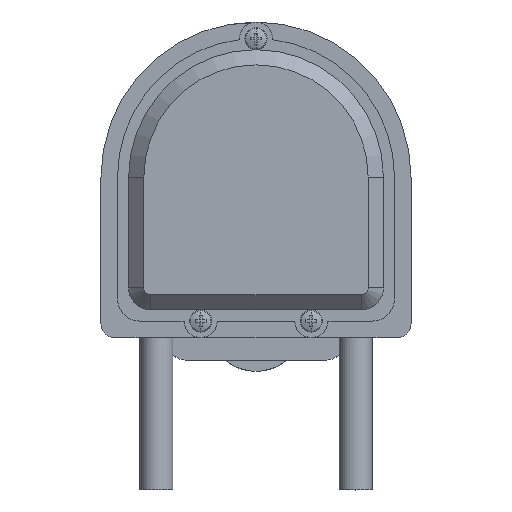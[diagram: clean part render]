
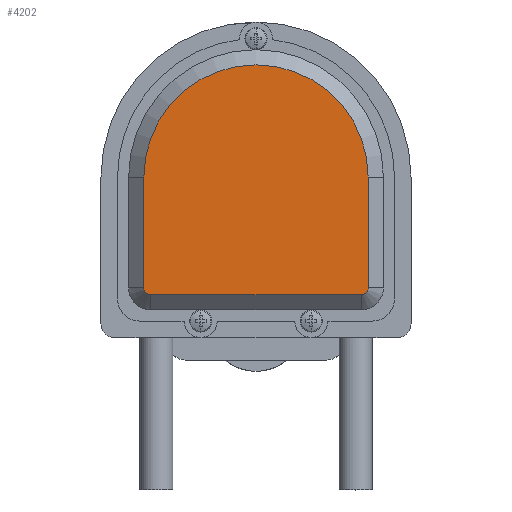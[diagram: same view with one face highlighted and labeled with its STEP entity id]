
A CAD part, top view. The second image highlights one B-rep face of the part: STEP entity #4202.
In plain terms, the highlighted planar face has unit normal (0, 0, 1).
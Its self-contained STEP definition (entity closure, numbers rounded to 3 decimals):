
#368 = ORIENTED_EDGE ( 'NONE', *, *, #10576, .T. ) ;
#792 = VECTOR ( 'NONE', #4920, 1000. ) ;
#870 = ORIENTED_EDGE ( 'NONE', *, *, #8773, .T. ) ;
#946 = DIRECTION ( 'NONE',  ( -1., 0., 0. ) ) ;
#1211 = LINE ( 'NONE', #5026, #792 ) ;
#1294 = ORIENTED_EDGE ( 'NONE', *, *, #3228, .T. ) ;
#1417 = ORIENTED_EDGE ( 'NONE', *, *, #6673, .T. ) ;
#1473 = DIRECTION ( 'NONE',  ( 0., 0., 1. ) ) ;
#1514 = CARTESIAN_POINT ( 'NONE',  ( 38., 18., 48.5 ) ) ;
#2456 = AXIS2_PLACEMENT_3D ( 'NONE', #6276, #10935, #11301 ) ;
#2470 = EDGE_CURVE ( 'NONE', #7220, #12833, #1211, .T. ) ;
#2713 = EDGE_LOOP ( 'NONE', ( #1417, #1294, #870, #4532, #368, #11167 ) ) ;
#3228 = EDGE_CURVE ( 'NONE', #11281, #5699, #11197, .T. ) ;
#3388 = CARTESIAN_POINT ( 'NONE',  ( 40.5, 58., 48.5 ) ) ;
#3872 = DIRECTION ( 'NONE',  ( -1., 0., 0. ) ) ;
#3887 = DIRECTION ( 'NONE',  ( 0., 0., 1. ) ) ;
#3900 = CARTESIAN_POINT ( 'NONE',  ( -38., 18., 48.5 ) ) ;
#4146 = CARTESIAN_POINT ( 'NONE',  ( 40.5, 18., 48.5 ) ) ;
#4202 = ADVANCED_FACE ( 'NONE', ( #12434 ), #7488, .F. ) ;
#4300 = VERTEX_POINT ( 'NONE', #9122 ) ;
#4532 = ORIENTED_EDGE ( 'NONE', *, *, #7767, .T. ) ;
#4920 = DIRECTION ( 'NONE',  ( 1., 0., 0. ) ) ;
#4968 = CIRCLE ( 'NONE', #5968, 40.5 ) ;
#5026 = CARTESIAN_POINT ( 'NONE',  ( 38., 15.5, 48.5 ) ) ;
#5391 = AXIS2_PLACEMENT_3D ( 'NONE', #3900, #3887, #3872 ) ;
#5699 = VERTEX_POINT ( 'NONE', #3388 ) ;
#5968 = AXIS2_PLACEMENT_3D ( 'NONE', #11133, #11117, #11090 ) ;
#6276 = CARTESIAN_POINT ( 'NONE',  ( 38., 18., 48.5 ) ) ;
#6673 = EDGE_CURVE ( 'NONE', #12833, #11281, #12157, .T. ) ;
#7220 = VERTEX_POINT ( 'NONE', #8536 ) ;
#7488 = PLANE ( 'NONE',  #2456 ) ;
#7663 = DIRECTION ( 'NONE',  ( 0., 1., 0. ) ) ;
#7767 = EDGE_CURVE ( 'NONE', #12725, #4300, #8387, .T. ) ;
#8369 = VECTOR ( 'NONE', #9692, 1000. ) ;
#8387 = LINE ( 'NONE', #9834, #8369 ) ;
#8536 = CARTESIAN_POINT ( 'NONE',  ( -38., 15.5, 48.5 ) ) ;
#8773 = EDGE_CURVE ( 'NONE', #5699, #12725, #4968, .T. ) ;
#9122 = CARTESIAN_POINT ( 'NONE',  ( -40.5, 18., 48.5 ) ) ;
#9692 = DIRECTION ( 'NONE',  ( 0., -1., 0. ) ) ;
#9834 = CARTESIAN_POINT ( 'NONE',  ( -40.5, 18., 48.5 ) ) ;
#10576 = EDGE_CURVE ( 'NONE', #4300, #7220, #12907, .T. ) ;
#10846 = CARTESIAN_POINT ( 'NONE',  ( 38., 15.5, 48.5 ) ) ;
#10935 = DIRECTION ( 'NONE',  ( 0., 0., -1. ) ) ;
#11090 = DIRECTION ( 'NONE',  ( -1., 0., 0. ) ) ;
#11096 = VECTOR ( 'NONE', #7663, 1000. ) ;
#11117 = DIRECTION ( 'NONE',  ( 0., 0., 1. ) ) ;
#11133 = CARTESIAN_POINT ( 'NONE',  ( 0., 58., 48.5 ) ) ;
#11167 = ORIENTED_EDGE ( 'NONE', *, *, #2470, .T. ) ;
#11187 = CARTESIAN_POINT ( 'NONE',  ( -40.5, 58., 48.5 ) ) ;
#11197 = LINE ( 'NONE', #4146, #11096 ) ;
#11224 = AXIS2_PLACEMENT_3D ( 'NONE', #1514, #1473, #946 ) ;
#11281 = VERTEX_POINT ( 'NONE', #12345 ) ;
#11301 = DIRECTION ( 'NONE',  ( -1., 0., 0. ) ) ;
#12157 = CIRCLE ( 'NONE', #11224, 2.5 ) ;
#12345 = CARTESIAN_POINT ( 'NONE',  ( 40.5, 18., 48.5 ) ) ;
#12434 = FACE_OUTER_BOUND ( 'NONE', #2713, .T. ) ;
#12725 = VERTEX_POINT ( 'NONE', #11187 ) ;
#12833 = VERTEX_POINT ( 'NONE', #10846 ) ;
#12907 = CIRCLE ( 'NONE', #5391, 2.5 ) ;
